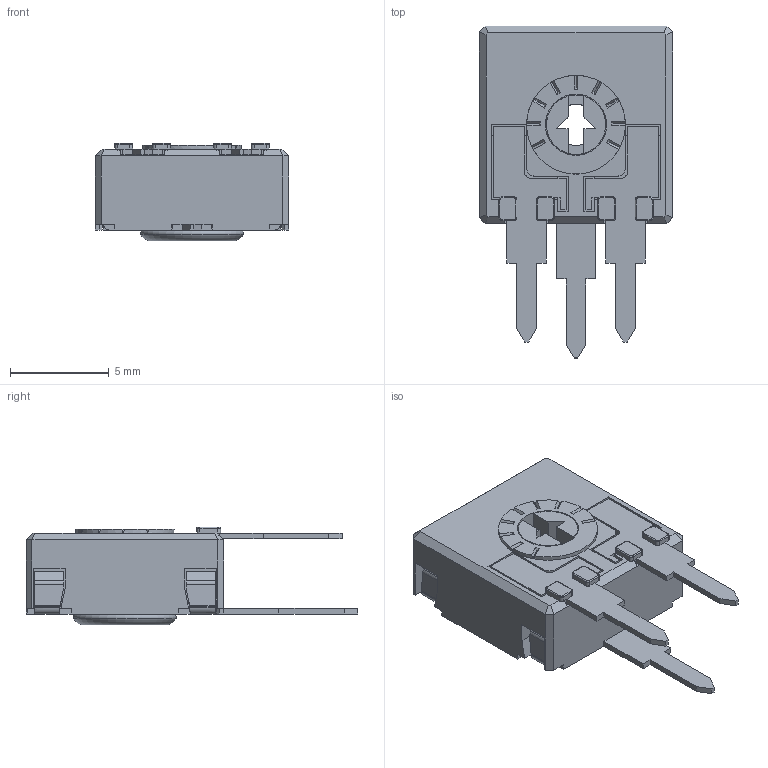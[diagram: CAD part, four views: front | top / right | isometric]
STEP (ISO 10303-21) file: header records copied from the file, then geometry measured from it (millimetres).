
FILE_DESCRIPTION(/* description */ (''),/* implementation_level */ '2;1');
FILE_NAME(/* name */ 'COMCA9PH3,8.stp',/* time_stamp */ '2026-03-30T17:17:04+02:00',/* author */ ('CEM'),/* organization */ (''),/* preprocessor_version */ 'ST-DEVELOPER v20.1',/* originating_system */ 'Autodesk Inventor 2026',/* authorisation */ '');
FILE_SCHEMA (('AUTOMOTIVE_DESIGN { 1 0 10303 214 3 1 1 }'));
Length unit declared in the file: millimetre
Products named in the file (1): COMCA9PH3,8
Bounding box: 9.8 x 16.8 x 4.95 mm (x, y, z)
Volume: 249.2 mm3; surface area: 835.4 mm2
Topology: 2 solids, 2 shells, 502 faces, 1438 edges, 912 vertices
Faces by surface type: plane 401, cylinder 66, torus 19, cone 16
Full cylindrical faces by diameter (mm): 3 x1, 3.1 x1, 4 x1, 4.8 x1, 5 x1
Entity records: 16404 total; most frequent: CARTESIAN_POINT 2905, ORIENTED_EDGE 2876, DIRECTION 2665, EDGE_CURVE 1438, LINE 1165, VECTOR 1165, VERTEX_POINT 912, AXIS2_PLACEMENT_3D 750
